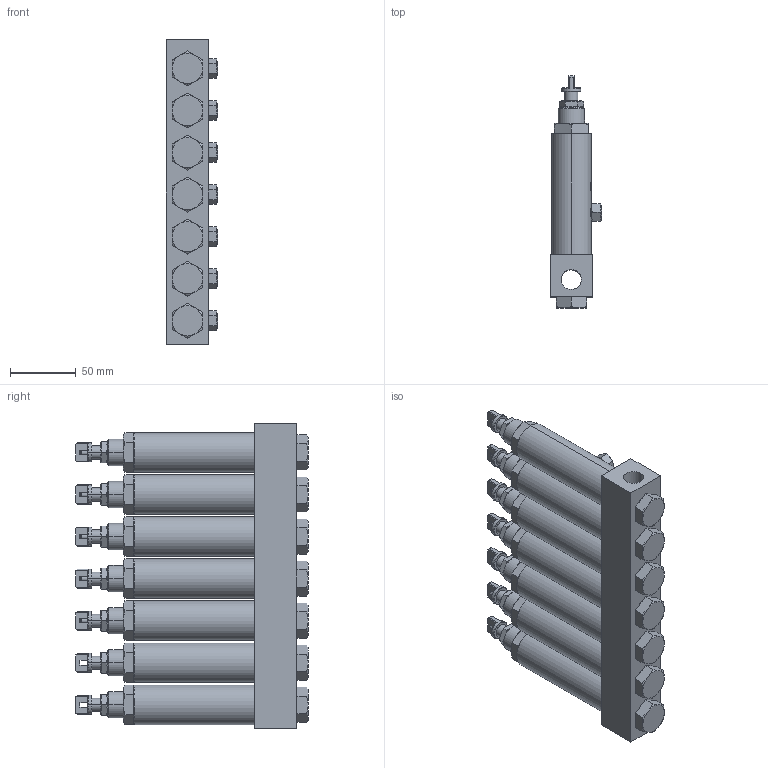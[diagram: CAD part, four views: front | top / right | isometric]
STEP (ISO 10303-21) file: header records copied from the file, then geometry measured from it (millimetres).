
FILE_DESCRIPTION (( 'STEP AP203' ), '1' );
FILE_NAME ('ASL-07.STEP', '2020-04-18T03:38:29', ( '个人用户' ), ( '微软中国' ), 'SwSTEP 2.0', 'SolidWorks 2018', '' );
FILE_SCHEMA (( 'CONFIG_CONTROL_DESIGN' ));
Length unit declared in the file: millimetre
Products named in the file (1): ASL-07
Bounding box: 39 x 176.5 x 232 mm (x, y, z)
Surface area: 137163.5 mm2 (no closed solid volume)
Topology: 0 solids, 70 shells, 753 faces, 2077 edges, 1383 vertices
Faces by surface type: plane 399, cone 216, cylinder 114, torus 14, sphere 10
Entity records: 27670 total; most frequent: CARTESIAN_POINT 9148, DIRECTION 3708, ORIENTED_EDGE 3662, EDGE_CURVE 2052, AXIS2_PLACEMENT_3D 1382, VERTEX_POINT 1368, VECTOR 944, LINE 944
